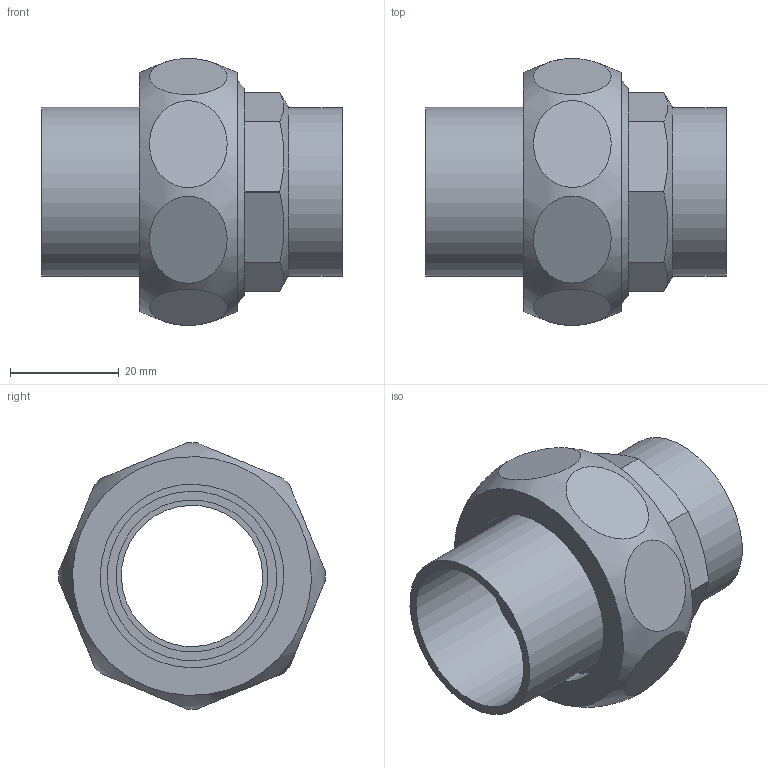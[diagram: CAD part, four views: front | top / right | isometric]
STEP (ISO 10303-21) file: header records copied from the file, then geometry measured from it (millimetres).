
FILE_DESCRIPTION((''),'2;1');
FILE_NAME('\\Lg50001\groups\SANHA Legnica\Engineering\Public\RYSUNKI\SANHA POLSKA\4340\step\14340_28(1).stp','2010-06-17T11:34:29',('pajchrowski'),(''),'Autodesk Inventor 2009','Autodesk Inventor 2009','');
FILE_SCHEMA(('AUTOMOTIVE_DESIGN { 1 0 10303 214 1 1 1 1 }'));
Length unit declared in the file: millimetre
Products named in the file (4): 14340_28(1); 14381_28-114(1); 14374_114_338(1); 14380_28-114(2)
Assembly tree (3 placements, depth 2):
  14340_28(1)
    14381_28-114(1)
    14374_114_338(1)
    14380_28-114(2)
Bounding box: 55.35 x 49.15 x 49.15 mm (x, y, z)
Volume: 28339.4 mm3; surface area: 19590.8 mm2
Topology: 3 solids, 3 shells, 53 faces, 105 edges, 70 vertices
Faces by surface type: plane 27, cylinder 19, cone 5, torus 1, bspline 1
Full cylindrical faces by diameter (mm): 26 x1, 27 x1, 28 x2, 31.2 x2, 33.8 x1, 35.5 x1, 38.5 x1, 38.952 x1, 41.91 x1
Entity records: 2719 total; most frequent: CARTESIAN_POINT 1574, DIRECTION 230, ORIENTED_EDGE 168, AXIS2_PLACEMENT_3D 103, EDGE_LOOP 90, EDGE_CURVE 84, VERTEX_POINT 68, FACE_OUTER_BOUND 53
